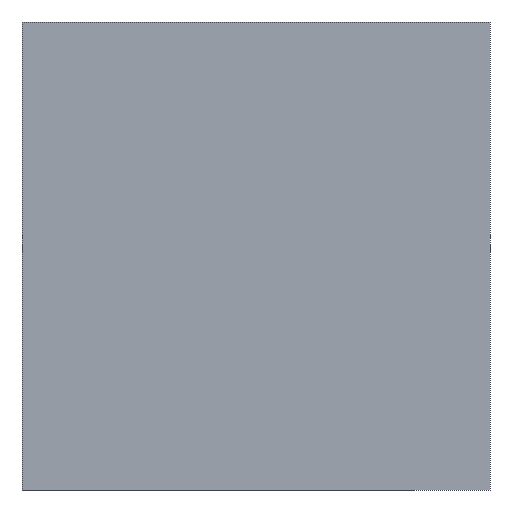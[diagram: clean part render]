
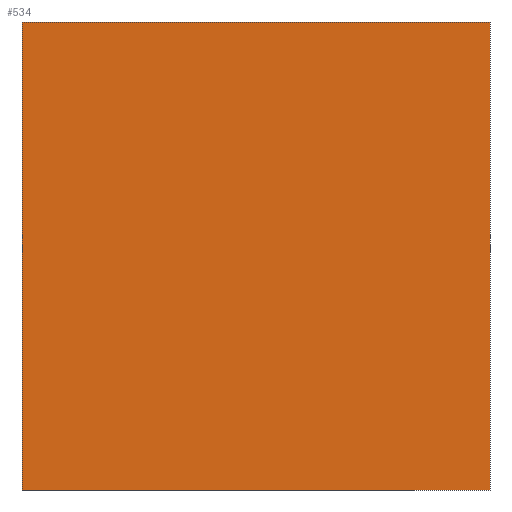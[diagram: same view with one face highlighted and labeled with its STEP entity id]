
A CAD part, left-side view. The second image highlights one B-rep face of the part: STEP entity #534.
In plain terms, the highlighted planar face has unit normal (-1, 0, 0).
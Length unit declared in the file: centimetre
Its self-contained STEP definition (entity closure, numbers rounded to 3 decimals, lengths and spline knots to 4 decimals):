
#11 = VERTEX_POINT ( 'NONE', #220 ) ;
#47 = CARTESIAN_POINT ( 'NONE',  ( 0., 1000., 1000. ) ) ;
#102 = CARTESIAN_POINT ( 'NONE',  ( 0., 0., 1000. ) ) ;
#158 = DIRECTION ( 'NONE',  ( 0., 0., -1. ) ) ;
#183 = VERTEX_POINT ( 'NONE', #102 ) ;
#210 = LINE ( 'NONE', #759, #955 ) ;
#220 = CARTESIAN_POINT ( 'NONE',  ( 0., 0., 0. ) ) ;
#229 = DIRECTION ( 'NONE',  ( 0., 0., -1. ) ) ;
#252 = CARTESIAN_POINT ( 'NONE',  ( 0., 0., 1000. ) ) ;
#256 = DIRECTION ( 'NONE',  ( 1., 0., 0. ) ) ;
#274 = ORIENTED_EDGE ( 'NONE', *, *, #679, .F. ) ;
#368 = EDGE_LOOP ( 'NONE', ( #529, #391, #274, #494 ) ) ;
#391 = ORIENTED_EDGE ( 'NONE', *, *, #1172, .F. ) ;
#462 = VECTOR ( 'NONE', #971, 100. ) ;
#465 = VECTOR ( 'NONE', #229, 100. ) ;
#466 = CARTESIAN_POINT ( 'NONE',  ( 0., 1000., 1000. ) ) ;
#494 = ORIENTED_EDGE ( 'NONE', *, *, #1109, .T. ) ;
#529 = ORIENTED_EDGE ( 'NONE', *, *, #880, .T. ) ;
#534 = ADVANCED_FACE ( 'NONE', ( #807 ), #892, .F. ) ;
#573 = DIRECTION ( 'NONE',  ( 0., -1., 0. ) ) ;
#574 = VERTEX_POINT ( 'NONE', #466 ) ;
#648 = LINE ( 'NONE', #252, #462 ) ;
#679 = EDGE_CURVE ( 'NONE', #574, #183, #710, .T. ) ;
#710 = LINE ( 'NONE', #1020, #998 ) ;
#759 = CARTESIAN_POINT ( 'NONE',  ( 0., 1000., 0. ) ) ;
#807 = FACE_OUTER_BOUND ( 'NONE', #368, .T. ) ;
#880 = EDGE_CURVE ( 'NONE', #1061, #11, #210, .T. ) ;
#892 = PLANE ( 'NONE',  #1168 ) ;
#945 = DIRECTION ( 'NONE',  ( 0., -1., 0. ) ) ;
#950 = CARTESIAN_POINT ( 'NONE',  ( 0., 1000., 0. ) ) ;
#955 = VECTOR ( 'NONE', #573, 100. ) ;
#971 = DIRECTION ( 'NONE',  ( 0., 0., -1. ) ) ;
#998 = VECTOR ( 'NONE', #945, 100. ) ;
#1020 = CARTESIAN_POINT ( 'NONE',  ( 0., 1000., 1000. ) ) ;
#1061 = VERTEX_POINT ( 'NONE', #950 ) ;
#1066 = CARTESIAN_POINT ( 'NONE',  ( 0., 1000., 1000. ) ) ;
#1109 = EDGE_CURVE ( 'NONE', #574, #1061, #1125, .T. ) ;
#1125 = LINE ( 'NONE', #47, #465 ) ;
#1168 = AXIS2_PLACEMENT_3D ( 'NONE', #1066, #256, #158 ) ;
#1172 = EDGE_CURVE ( 'NONE', #183, #11, #648, .T. ) ;
